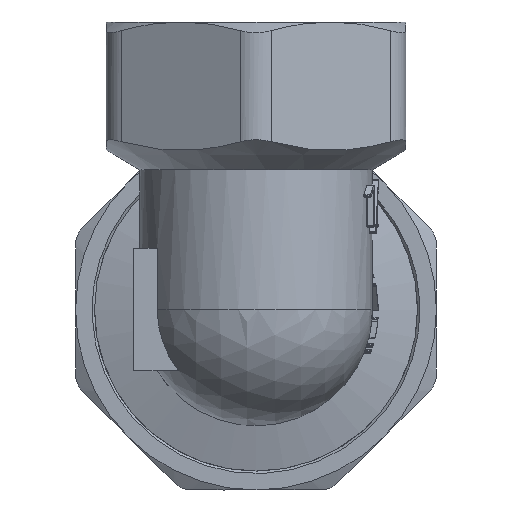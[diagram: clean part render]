
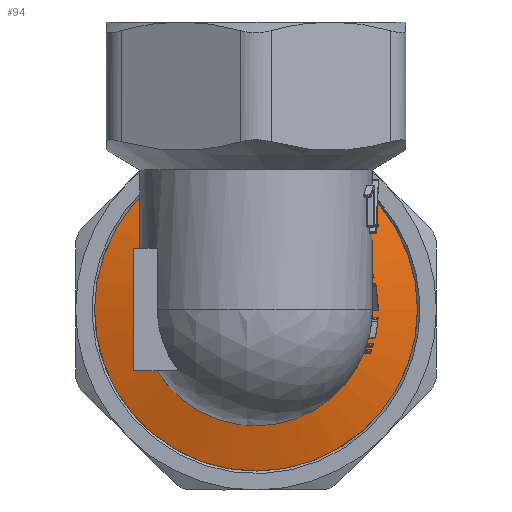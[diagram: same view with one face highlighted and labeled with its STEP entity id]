
A CAD part, front view. The second image highlights one B-rep face of the part: STEP entity #94.
In plain terms, the highlighted conical face has half-angle 75 degrees and reference radius 11.35 mm.
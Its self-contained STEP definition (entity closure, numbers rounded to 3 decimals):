
#94=ADVANCED_FACE('',(#687,#689),#691,.T.);
#687=FACE_OUTER_BOUND('',#688,.T.);
#688=EDGE_LOOP('',(#2777));
#689=FACE_OUTER_BOUND('',#690,.T.);
#690=EDGE_LOOP('',(#2778));
#691=CONICAL_SURFACE('',#692,11.35,1.309);
#692=AXIS2_PLACEMENT_3D('',#693,#694,#695);
#693=CARTESIAN_POINT('',(0.,17.004,0.));
#694=DIRECTION('',(0.,1.,0.));
#695=DIRECTION('',(-1.,0.,0.));
#2777=ORIENTED_EDGE('',*,*,#4607,.T.);
#2778=ORIENTED_EDGE('',*,*,#4605,.T.);
#4605=EDGE_CURVE('',#5433,#5433,#5434,.F.);
#4607=EDGE_CURVE('',#5437,#5437,#5438,.T.);
#5433=VERTEX_POINT('',#7802);
#5434=CIRCLE('',#7803,13.2);
#5437=VERTEX_POINT('',#7812);
#5438=CIRCLE('',#7813,9.5);
#7802=CARTESIAN_POINT('',(-13.2,17.5,0.));
#7803=AXIS2_PLACEMENT_3D('',#7804,#7805,#7806);
#7804=CARTESIAN_POINT('',(0.,17.5,0.));
#7805=DIRECTION('',(0.,1.,0.));
#7806=DIRECTION('',(-1.,0.,0.));
#7812=CARTESIAN_POINT('',(-9.5,16.509,0.));
#7813=AXIS2_PLACEMENT_3D('',#7814,#7815,#7816);
#7814=CARTESIAN_POINT('',(0.,16.509,0.));
#7815=DIRECTION('',(0.,1.,0.));
#7816=DIRECTION('',(-1.,0.,0.));
